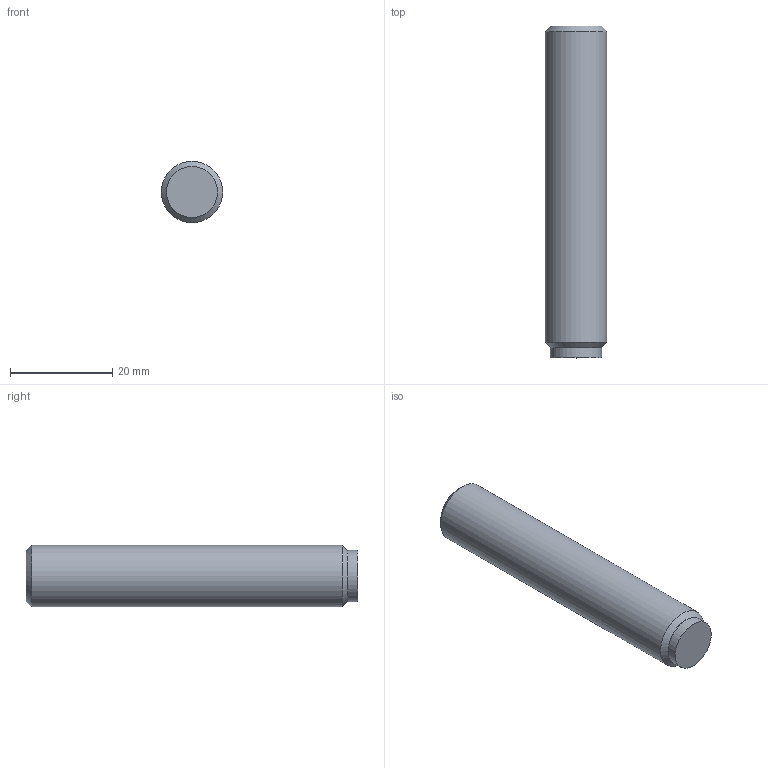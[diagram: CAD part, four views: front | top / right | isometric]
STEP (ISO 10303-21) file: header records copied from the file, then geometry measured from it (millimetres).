
FILE_DESCRIPTION( ( 'STEP AP203' ), '1' );
FILE_NAME( 'C:/Temp/Ganter_Step_05_03_2020/data/3_2/gn913_3/Grub screw GN 913.3-M12-63-MS.stp', '2020-03-13T05:35:54', ( 'License CC BY-ND 4.0' ), ( 'CADENAS' ), ' ', 'PARTsolutions', ' ' );
FILE_SCHEMA( ( 'CONFIG_CONTROL_DESIGN' ) );
Length unit declared in the file: millimetre
Products named in the file (1): _Grub screw GN 913.3-M12-63-MS
Bounding box: 12 x 65 x 12 mm (x, y, z)
Volume: 6991.9 mm3; surface area: 2784.5 mm2
Topology: 1 solids, 1 shells, 14 faces, 28 edges, 18 vertices
Faces by surface type: plane 10, cylinder 2, cone 2
Full cylindrical faces by diameter (mm): 10 x1, 12 x1
Entity records: 386 total; most frequent: DIRECTION 60, CARTESIAN_POINT 57, ORIENTED_EDGE 48, EDGE_CURVE 24, AXIS2_PLACEMENT_3D 21, EDGE_LOOP 20, VERTEX_POINT 18, LINE 18
